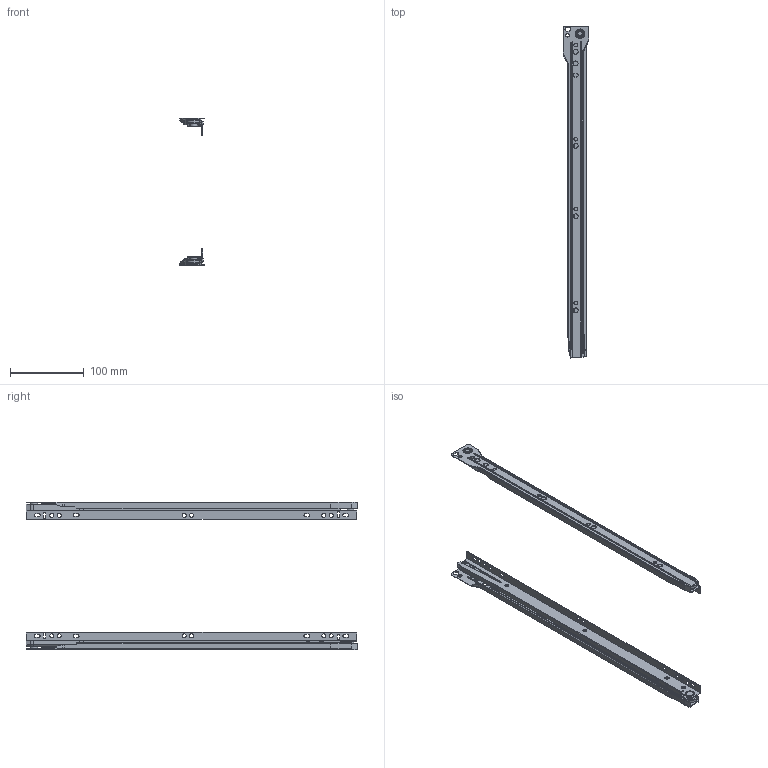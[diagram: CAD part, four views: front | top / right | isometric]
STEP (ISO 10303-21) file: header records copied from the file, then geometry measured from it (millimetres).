
FILE_DESCRIPTION(/* description */ (''),/* implementation_level */ '2;1');
FILE_NAME(/* name */ 'C:\Users\dmitruk\Documents\WORK\НАПРАВЛЯЮЩИЕ\Роликовые\Направляющие роликовая AKS 0.9 mm\Направляющие роликовая AKS 0.9 mm-450.stp',/* time_stamp */ '2022-07-29T15:04:48+03:00',/* author */ ('dmitruk'),/* organization */ (''),/* preprocessor_version */ 'ST-DEVELOPER v16.5',/* originating_system */ 'Autodesk Inventor 2017',/* authorisation */ '');
FILE_SCHEMA (('AUTOMOTIVE_DESIGN { 1 0 10303 214 3 1 1 }'));
Length unit declared in the file: millimetre
Products named in the file (5): Направляющие 
роликовая AKS 0.9 mm; rol_cr_09; rol_cl_09-01; rol_dr_09; rol_dl_09
Assembly tree (4 placements, depth 2):
  Направляющие 
роликовая AKS 0.9 mm
    rol_cr_09
    rol_cl_09-01
    rol_dr_09
    rol_dl_09
Bounding box: 35 x 451.38 x 201 mm (x, y, z)
Volume: 68845.5 mm3; surface area: 138297.3 mm2
Topology: 4 solids, 6 shells, 542 faces, 1403 edges, 880 vertices
Faces by surface type: plane 262, cylinder 205, cone 28, bspline 23, torus 22, sphere 2
Full cylindrical faces by diameter (mm): 5 x10, 5.5 x20, 6 x2, 6.1 x4, 6.8 x5, 7.8 x1, 9 x4, 10 x4, 14 x4, 19 x4
Entity records: 17008 total; most frequent: CARTESIAN_POINT 3219, DIRECTION 2843, ORIENTED_EDGE 2616, EDGE_CURVE 1302, AXIS2_PLACEMENT_3D 1027, VERTEX_POINT 880, LINE 789, VECTOR 789
